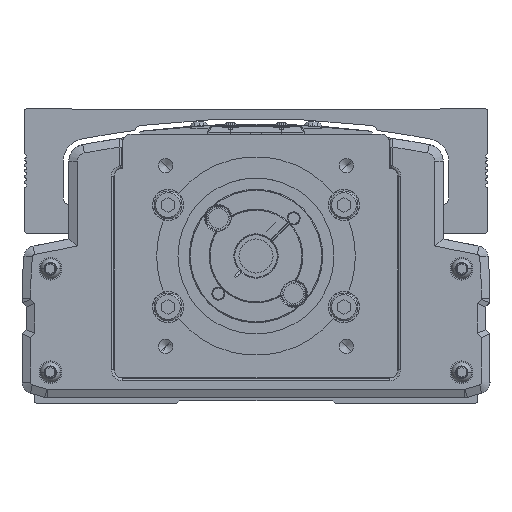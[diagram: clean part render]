
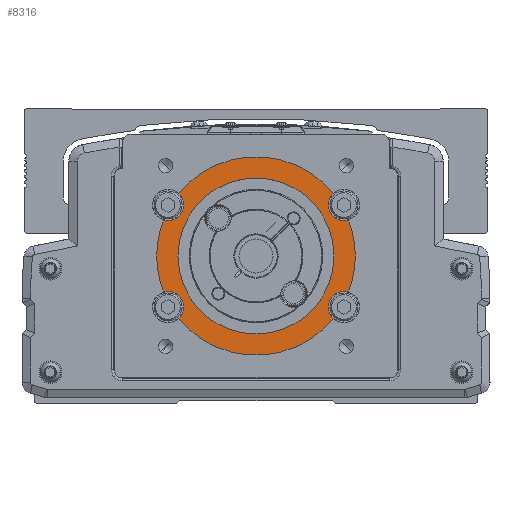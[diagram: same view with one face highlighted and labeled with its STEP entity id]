
A CAD part, front view. The second image highlights one B-rep face of the part: STEP entity #8316.
In plain terms, the highlighted planar face has unit normal (0, -1, 0).
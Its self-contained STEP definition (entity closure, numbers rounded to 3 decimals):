
#8316=ADVANCED_FACE('',(#17223,#17224),#17225,.F.);
#17223=FACE_OUTER_BOUND('',#29070,.T.);
#17224=FACE_BOUND('',#29071,.T.);
#17225=PLANE('',#29072);
#29070=EDGE_LOOP('',(#53314,#53315,#53316,#53317,#53318,#53319,#53320,#53321,#53322,#53323,#53324,#53325,#53326,#53327));
#29071=EDGE_LOOP('',(#53328,#53329));
#29072=AXIS2_PLACEMENT_3D('',#53330,#53331,#53332);
#53314=ORIENTED_EDGE('',*,*,#67922,.F.);
#53315=ORIENTED_EDGE('',*,*,#59987,.T.);
#53316=ORIENTED_EDGE('',*,*,#61585,.T.);
#53317=ORIENTED_EDGE('',*,*,#65678,.F.);
#53318=ORIENTED_EDGE('',*,*,#66719,.F.);
#53319=ORIENTED_EDGE('',*,*,#68776,.T.);
#53320=ORIENTED_EDGE('',*,*,#64585,.F.);
#53321=ORIENTED_EDGE('',*,*,#68215,.F.);
#53322=ORIENTED_EDGE('',*,*,#68836,.T.);
#53323=ORIENTED_EDGE('',*,*,#68837,.T.);
#53324=ORIENTED_EDGE('',*,*,#68838,.F.);
#53325=ORIENTED_EDGE('',*,*,#63936,.F.);
#53326=ORIENTED_EDGE('',*,*,#66534,.T.);
#53327=ORIENTED_EDGE('',*,*,#67214,.F.);
#53328=ORIENTED_EDGE('',*,*,#62389,.F.);
#53329=ORIENTED_EDGE('',*,*,#64273,.F.);
#53330=CARTESIAN_POINT('',(-600.,53.222,0.));
#53331=DIRECTION('',(0.,1.0,0.));
#53332=DIRECTION('',(-1.0,0.,0.));
#59987=EDGE_CURVE('',#71405,#71402,#71406,.T.);
#61585=EDGE_CURVE('',#71402,#74189,#74191,.T.);
#62389=EDGE_CURVE('',#75517,#75513,#75519,.T.);
#63936=EDGE_CURVE('',#77998,#78000,#78001,.T.);
#64273=EDGE_CURVE('',#75513,#75517,#78504,.T.);
#64585=EDGE_CURVE('',#78964,#78966,#78967,.T.);
#65678=EDGE_CURVE('',#80583,#74189,#80585,.T.);
#66534=EDGE_CURVE('',#77998,#81757,#81760,.T.);
#66719=EDGE_CURVE('',#82005,#80583,#82007,.T.);
#67214=EDGE_CURVE('',#82640,#81757,#82642,.T.);
#67922=EDGE_CURVE('',#71405,#82640,#83525,.T.);
#68215=EDGE_CURVE('',#83867,#78964,#83869,.T.);
#68776=EDGE_CURVE('',#82005,#78966,#84519,.T.);
#68836=EDGE_CURVE('',#83867,#84586,#84587,.T.);
#68837=EDGE_CURVE('',#84586,#84588,#84589,.T.);
#68838=EDGE_CURVE('',#78000,#84588,#84590,.T.);
#71402=VERTEX_POINT('',#87840);
#71405=VERTEX_POINT('',#87844);
#71406=CIRCLE('',#87845,35.0);
#74189=VERTEX_POINT('',#92035);
#74191=CIRCLE('',#92038,35.0);
#75513=VERTEX_POINT('',#94189);
#75517=VERTEX_POINT('',#94194);
#75519=CIRCLE('',#94197,27.5);
#77998=VERTEX_POINT('',#97601);
#78000=VERTEX_POINT('',#97604);
#78001=CIRCLE('',#97605,5.5);
#78504=CIRCLE('',#98268,27.5);
#78964=VERTEX_POINT('',#99031);
#78966=VERTEX_POINT('',#99034);
#78967=CIRCLE('',#99035,5.5);
#80583=VERTEX_POINT('',#101305);
#80585=CIRCLE('',#101308,5.5);
#81757=VERTEX_POINT('',#103048);
#81760=CIRCLE('',#103052,35.0);
#82005=VERTEX_POINT('',#103400);
#82007=CIRCLE('',#103403,5.5);
#82640=VERTEX_POINT('',#104268);
#82642=CIRCLE('',#104271,5.5);
#83525=CIRCLE('',#105595,5.5);
#83867=VERTEX_POINT('',#106090);
#83869=CIRCLE('',#106093,5.5);
#84519=CIRCLE('',#107004,35.0);
#84586=VERTEX_POINT('',#107095);
#84587=CIRCLE('',#107096,35.0);
#84588=VERTEX_POINT('',#107097);
#84589=CIRCLE('',#107098,35.0);
#84590=CIRCLE('',#107099,5.5);
#87840=CARTESIAN_POINT('',(-635.,53.222,0.));
#87844=CARTESIAN_POINT('',(-632.6,53.222,12.738));
#87845=AXIS2_PLACEMENT_3D('',#109804,#109805,#109806);
#92035=CARTESIAN_POINT('',(-632.6,53.222,-12.738));
#92038=AXIS2_PLACEMENT_3D('',#112052,#112053,#112054);
#94189=CARTESIAN_POINT('',(-627.5,53.222,0.));
#94194=CARTESIAN_POINT('',(-572.5,53.222,0.));
#94197=AXIS2_PLACEMENT_3D('',#113192,#113193,#113194);
#97601=CARTESIAN_POINT('',(-572.777,53.222,21.998));
#97604=CARTESIAN_POINT('',(-574.5,53.222,18.));
#97605=AXIS2_PLACEMENT_3D('',#115478,#115479,#115480);
#98268=AXIS2_PLACEMENT_3D('',#115944,#115945,#115946);
#99031=CARTESIAN_POINT('',(-574.5,53.222,-18.));
#99034=CARTESIAN_POINT('',(-572.777,53.222,-21.998));
#99035=AXIS2_PLACEMENT_3D('',#116330,#116331,#116332);
#101305=CARTESIAN_POINT('',(-625.5,53.222,-18.));
#101308=AXIS2_PLACEMENT_3D('',#117812,#117813,#117814);
#103048=CARTESIAN_POINT('',(-627.223,53.222,21.998));
#103052=AXIS2_PLACEMENT_3D('',#118821,#118822,#118823);
#103400=CARTESIAN_POINT('',(-627.223,53.222,-21.998));
#103403=AXIS2_PLACEMENT_3D('',#119053,#119054,#119055);
#104268=CARTESIAN_POINT('',(-625.5,53.222,18.));
#104271=AXIS2_PLACEMENT_3D('',#119631,#119632,#119633);
#105595=AXIS2_PLACEMENT_3D('',#120404,#120405,#120406);
#106090=CARTESIAN_POINT('',(-567.4,53.222,-12.738));
#106093=AXIS2_PLACEMENT_3D('',#120731,#120732,#120733);
#107004=AXIS2_PLACEMENT_3D('',#121278,#121279,#121280);
#107095=CARTESIAN_POINT('',(-565.,53.222,0.));
#107096=AXIS2_PLACEMENT_3D('',#121326,#121327,#121328);
#107097=CARTESIAN_POINT('',(-567.4,53.222,12.738));
#107098=AXIS2_PLACEMENT_3D('',#121329,#121330,#121331);
#107099=AXIS2_PLACEMENT_3D('',#121332,#121333,#121334);
#109804=CARTESIAN_POINT('',(-600.,53.222,0.));
#109805=DIRECTION('',(0.,-1.0,0.));
#109806=DIRECTION('',(-1.0,0.,0.));
#112052=CARTESIAN_POINT('',(-600.,53.222,0.));
#112053=DIRECTION('',(0.,-1.0,0.));
#112054=DIRECTION('',(-1.0,0.,0.));
#113192=CARTESIAN_POINT('',(-600.,53.222,0.));
#113193=DIRECTION('',(0.,-1.0,0.));
#113194=DIRECTION('',(-1.0,0.,0.));
#115478=CARTESIAN_POINT('',(-569.,53.222,18.));
#115479=DIRECTION('',(0.,-1.0,0.));
#115480=DIRECTION('',(1.0,0.,0.));
#115944=CARTESIAN_POINT('',(-600.,53.222,0.));
#115945=DIRECTION('',(0.,-1.0,0.));
#115946=DIRECTION('',(-1.0,0.,0.));
#116330=CARTESIAN_POINT('',(-569.,53.222,-18.));
#116331=DIRECTION('',(0.,-1.0,0.));
#116332=DIRECTION('',(1.0,0.,0.));
#117812=CARTESIAN_POINT('',(-631.,53.222,-18.));
#117813=DIRECTION('',(0.,-1.0,0.));
#117814=DIRECTION('',(-1.0,0.,0.));
#118821=CARTESIAN_POINT('',(-600.,53.222,0.));
#118822=DIRECTION('',(0.,-1.0,0.));
#118823=DIRECTION('',(-1.0,0.,0.));
#119053=CARTESIAN_POINT('',(-631.,53.222,-18.));
#119054=DIRECTION('',(0.,-1.0,0.));
#119055=DIRECTION('',(-1.0,0.,0.));
#119631=CARTESIAN_POINT('',(-631.,53.222,18.));
#119632=DIRECTION('',(0.,-1.0,0.));
#119633=DIRECTION('',(-1.0,0.,0.));
#120404=CARTESIAN_POINT('',(-631.,53.222,18.));
#120405=DIRECTION('',(0.,-1.0,0.));
#120406=DIRECTION('',(-1.0,0.,0.));
#120731=CARTESIAN_POINT('',(-569.,53.222,-18.));
#120732=DIRECTION('',(0.,-1.0,0.));
#120733=DIRECTION('',(1.0,0.,0.));
#121278=CARTESIAN_POINT('',(-600.,53.222,0.));
#121279=DIRECTION('',(0.,-1.0,0.));
#121280=DIRECTION('',(-1.0,0.,0.));
#121326=CARTESIAN_POINT('',(-600.,53.222,0.));
#121327=DIRECTION('',(0.,-1.0,0.));
#121328=DIRECTION('',(-1.0,0.,0.));
#121329=CARTESIAN_POINT('',(-600.,53.222,0.));
#121330=DIRECTION('',(0.,-1.0,0.));
#121331=DIRECTION('',(-1.0,0.,0.));
#121332=CARTESIAN_POINT('',(-569.,53.222,18.));
#121333=DIRECTION('',(0.,-1.0,0.));
#121334=DIRECTION('',(1.0,0.,0.));
